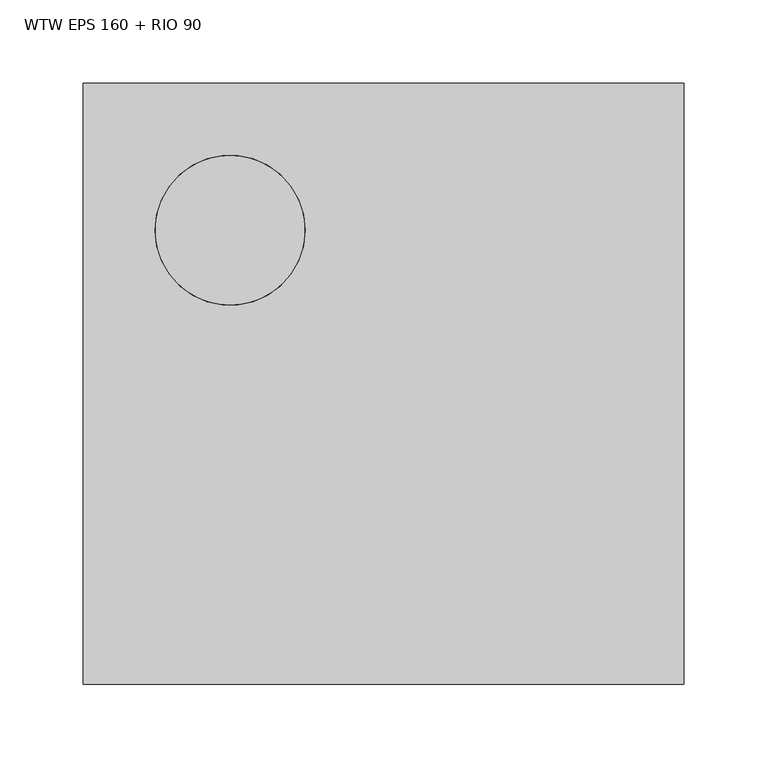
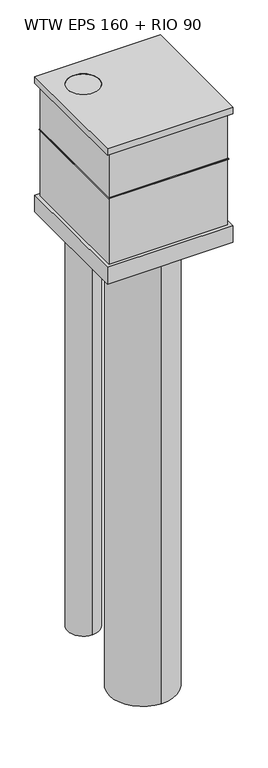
"""IFC4 building model written with IfcOpenShell, lengths in millimetres: proxy geometry, RSen_GM_WPB_Mini-Delta_M&G : WTW EPS 160 + RIO 90."""

from ifc_helpers import new_model, si_unit, point, frame, frame_2d, origin, place, context, project, spatial, polyline, circle_curve, trimmed, segment, composite_curve, outline, extrude, faceted_brep, source, transform, mapped, element, save
from ifc_brep_helpers import plane_surface, revolved_surface, advanced_brep


def wtw_eps_160_rio_90_c0a29b39(model_context):
    return source(origin(), model_context, "Body", "SolidModel", [
        extrude(outline(polyline([(172.5, 172.5), (172.5, -172.5), (-172.5, -172.5), (-172.5, 172.5), (172.5, 172.5)])), frame((0.0, 0.0, 567.8458328), z_axis=(0.0, 0.0, 1.0), x_axis=(1.0, 0.0, 0.0)), (0.0, 0.0, 1.0), 1.3),
        extrude(outline(composite_curve([segment(trimmed(circle_curve(frame_2d((-92.0, 92.0)), 45.0), [point((-92.0, 47.0))], [point((-92.0, 137.0))], False, "CARTESIAN"), True, "CONTINUOUS"), segment(trimmed(circle_curve(frame_2d((-92.0, 92.0)), 45.0), [point((-92.0, 137.0))], [point((-92.0, 47.0))], False, "CARTESIAN"), True, "CONTINUOUS")], self_intersect=False)), frame((0.0, 0.0, -911.1541672), z_axis=(0.0, 0.0, 1.0), x_axis=(1.0, 0.0, 0.0)), (0.0, 0.0, 1.0), 1636.7),
        extrude(outline(composite_curve([segment(trimmed(circle_curve(frame_2d((0.5, -42.0)), 95.0), [point((0.5, -137.0))], [point((0.5, 53.0))], False, "CARTESIAN"), True, "CONTINUOUS"), segment(trimmed(circle_curve(frame_2d((0.5, -42.0)), 95.0), [point((0.5, 53.0))], [point((0.5, -137.0))], False, "CARTESIAN"), True, "CONTINUOUS")], self_intersect=False)), frame((0.0, 0.0, -1040.1541672), z_axis=(0.0, 0.0, 1.0), x_axis=(1.0, 0.0, 0.0)), (0.0, 0.0, 1.0), 1506.0),
        advanced_brep(
        [(180.0, 180.0, 726.8458328), (-180.0, 180.0, 726.8458328), (-180.0, -180.0, 726.8458328), (180.0, -180.0, 726.8458328), (-137.0, 92.0, 726.8458328), (-47.0, 92.0, 726.8458328), (180.0, 180.0, 706.8458328), (180.0, -180.0, 706.8458328), (-180.0, -180.0, 706.8458328), (-180.0, 180.0, 706.8458328), (178.7, 178.7, 706.8458328), (-178.7, 178.7, 706.8458328), (-178.7, -178.7, 706.8458328), (178.7, -178.7, 706.8458328), (170.0, 170.0, 706.8458328), (170.0, -170.0, 706.8458328), (-170.0, -170.0, 706.8458328), (-170.0, 170.0, 706.8458328), (168.7, -168.7, 706.8458328), (168.7, 168.7, 706.8458328), (-168.7, 168.7, 706.8458328), (-168.7, -168.7, 706.8458328), (178.7, 178.7, 725.5458328), (178.7, -178.7, 725.5458328), (-178.7, -178.7, 725.5458328), (-178.7, 178.7, 725.5458328), (170.0, 170.0, 725.5458328), (-170.0, 170.0, 725.5458328), (-170.0, -170.0, 725.5458328), (170.0, -170.0, 725.5458328), (168.7, -168.7, 725.5458328), (-168.7, -168.7, 725.5458328), (-168.7, 168.7, 725.5458328), (168.7, 168.7, 725.5458328), (-47.0, 92.0, 725.5458328), (-137.0, 92.0, 725.5458328)],
        [
            (0, 1),
            (1, 2),
            (2, 3),
            (3, 0),
            (4, 5, circle_curve(frame((-92.0, 92.0, 726.8458328), z_axis=(0.0, 0.0, -1.0), x_axis=(1.0, 0.0, 0.0)), 45.0)),
            (5, 4, circle_curve(frame((-92.0, 92.0, 726.8458328), z_axis=(0.0, 0.0, -1.0), x_axis=(1.0, 0.0, 0.0)), 45.0)),
            (6, 7),
            (7, 8),
            (8, 9),
            (9, 6),
            (10, 11),
            (11, 12),
            (12, 13),
            (13, 10),
            (14, 15),
            (15, 16),
            (16, 17),
            (17, 14),
            (18, 19),
            (19, 20),
            (20, 21),
            (21, 18),
            (0, 6),
            (9, 1),
            (8, 2),
            (7, 3),
            (22, 23),
            (23, 24),
            (24, 25),
            (25, 22),
            (26, 27),
            (27, 28),
            (28, 29),
            (29, 26),
            (30, 31),
            (31, 32),
            (32, 33),
            (33, 30),
            (34, 35, circle_curve(frame((-92.0, 92.0, 725.5458328), z_axis=(0.0, 0.0, 1.0), x_axis=(1.0, 0.0, 0.0)), 45.0)),
            (35, 34, circle_curve(frame((-92.0, 92.0, 725.5458328), z_axis=(0.0, 0.0, 1.0), x_axis=(1.0, 0.0, 0.0)), 45.0)),
            (25, 11),
            (10, 22),
            (24, 12),
            (23, 13),
            (29, 15),
            (14, 26),
            (28, 16),
            (27, 17),
            (33, 19),
            (18, 30),
            (32, 20),
            (31, 21),
            (4, 35),
            (34, 5),
        ],
        [
            plane_surface(frame((-180.0, 180.0, 726.8458328), z_axis=(0.0, 0.0, 1.0), x_axis=(-1.0, 0.0, 0.0))),
            plane_surface(frame((-180.0, 180.0, 706.8458328), z_axis=(0.0, 0.0, -1.0), x_axis=(1.0, 0.0, 0.0))),
            plane_surface(frame((180.0, 180.0, 726.8458328), z_axis=(0.0, 1.0, 0.0), x_axis=(0.0, 0.0, -1.0))),
            plane_surface(frame((-180.0, 180.0, 726.8458328), z_axis=(-1.0, 0.0, 0.0), x_axis=(0.0, 0.0, -1.0))),
            plane_surface(frame((-180.0, -180.0, 726.8458328), z_axis=(0.0, -1.0, 0.0), x_axis=(0.0, 0.0, -1.0))),
            plane_surface(frame((180.0, -180.0, 726.8458328), z_axis=(1.0, 0.0, 0.0), x_axis=(0.0, 0.0, -1.0))),
            plane_surface(frame((-170.0, 178.7, 725.5458328), z_axis=(0.0, 0.0, -1.0), x_axis=(-1.0, 0.0, 0.0))),
            plane_surface(frame((178.7, 178.7, 725.5458328), z_axis=(0.0, -1.0, 0.0), x_axis=(0.0, 0.0, -1.0))),
            plane_surface(frame((-178.7, 178.7, 725.5458328), z_axis=(1.0, 0.0, 0.0), x_axis=(0.0, 0.0, -1.0))),
            plane_surface(frame((-178.7, -178.7, 725.5458328), z_axis=(0.0, 1.0, 0.0), x_axis=(0.0, 0.0, -1.0))),
            plane_surface(frame((178.7, -178.7, 725.5458328), z_axis=(-1.0, 0.0, 0.0), x_axis=(0.0, 0.0, -1.0))),
            plane_surface(frame((170.0, 170.0, 725.5458328), z_axis=(1.0, 0.0, 0.0), x_axis=(0.0, 0.0, -1.0))),
            plane_surface(frame((170.0, -170.0, 725.5458328), z_axis=(0.0, -1.0, 0.0), x_axis=(0.0, 0.0, -1.0))),
            plane_surface(frame((-170.0, -170.0, 725.5458328), z_axis=(-1.0, 0.0, 0.0), x_axis=(0.0, 0.0, -1.0))),
            plane_surface(frame((-170.0, 170.0, 725.5458328), z_axis=(0.0, 1.0, 0.0), x_axis=(0.0, 0.0, -1.0))),
            plane_surface(frame((168.7, -168.7, 725.5458328), z_axis=(-1.0, 0.0, 0.0), x_axis=(0.0, 0.0, -1.0))),
            plane_surface(frame((168.7, 168.7, 725.5458328), z_axis=(0.0, -1.0, 0.0), x_axis=(0.0, 0.0, -1.0))),
            plane_surface(frame((-168.7, 168.7, 725.5458328), z_axis=(1.0, 0.0, 0.0), x_axis=(0.0, 0.0, -1.0))),
            plane_surface(frame((-168.7, -168.7, 725.5458328), z_axis=(0.0, 1.0, 0.0), x_axis=(0.0, 0.0, -1.0))),
            revolved_surface(polyline([(-47.0, 92.0, 725.5458328), (-47.0, 92.0, 726.8458328)]), (-92.0, 92.0, 706.8458328), (0.0, 0.0, -1.0)),
        ],
        [
            (0, [[1, 2, 3, 4], [5, 6]]),
            (1, [[7, 8, 9, 10], [11, 12, 13, 14]]),
            (1, [[15, 16, 17, 18], [19, 20, 21, 22]]),
            (2, [[-1, 23, -10, 24]]),
            (3, [[-2, -24, -9, 25]]),
            (4, [[-3, -25, -8, 26]]),
            (5, [[-4, -26, -7, -23]]),
            (6, [[27, 28, 29, 30], [31, 32, 33, 34]]),
            (6, [[35, 36, 37, 38], [39, 40]]),
            (7, [[-30, 41, -11, 42]]),
            (8, [[-29, 43, -12, -41]]),
            (9, [[-28, 44, -13, -43]]),
            (10, [[-27, -42, -14, -44]]),
            (11, [[-34, 45, -15, 46]]),
            (12, [[-33, 47, -16, -45]]),
            (13, [[-32, 48, -17, -47]]),
            (14, [[-31, -46, -18, -48]]),
            (15, [[-38, 49, -19, 50]]),
            (16, [[-37, 51, -20, -49]]),
            (17, [[-36, 52, -21, -51]]),
            (18, [[-35, -50, -22, -52]]),
            (19, [[53, -39, 54, -5]]),
            (19, [[-53, -6, -54, -40]]),
        ],
    ),
        faceted_brep([(170.0, 170.0, 725.5458328), (-170.0, 170.0, 725.5458328), (-170.0, -170.0, 725.5458328), (170.0, -170.0, 725.5458328), (168.7, 168.7, 725.5458328), (168.7, -168.7, 725.5458328), (-168.7, -168.7, 725.5458328), (-168.7, 168.7, 725.5458328), (170.0, 170.0, 367.8458328), (170.0, -170.0, 367.8458328), (-170.0, -170.0, 367.8458328), (-170.0, 170.0, 367.8458328), (168.7, 168.7, 367.8458328), (-168.7, 168.7, 367.8458328), (-168.7, -168.7, 367.8458328), (168.7, -168.7, 367.8458328), (170.0, 170.0, 706.8458328), (-170.0, 170.0, 706.8458328), (-170.0, -170.0, 706.8458328), (170.0, -170.0, 706.8458328), (168.7, 168.7, 706.8458328), (168.7, -168.7, 706.8458328), (-168.7, -168.7, 706.8458328), (-168.7, 168.7, 706.8458328)], [[[0, 1, 2, 3], [4, 5, 6, 7]], [[8, 9, 10, 11], [12, 13, 14, 15]], [[1, 0, 16, 8, 11, 17]], [[2, 1, 17, 11, 10, 18]], [[3, 2, 18, 10, 9, 19]], [[0, 3, 19, 9, 8, 16]], [[5, 4, 20, 12, 15, 21]], [[6, 5, 21, 15, 14, 22]], [[7, 6, 22, 14, 13, 23]], [[4, 7, 23, 13, 12, 20]]]),
        faceted_brep([(180.0, 180.0, 317.8458328), (180.0, -180.0, 317.8458328), (-180.0, -180.0, 317.8458328), (-180.0, 180.0, 317.8458328), (178.7, 178.7, 317.8458328), (-178.7, 178.7, 317.8458328), (-178.7, -178.7, 317.8458328), (178.7, -178.7, 317.8458328), (180.0, 180.0, 367.8458328), (-180.0, 180.0, 367.8458328), (-180.0, -180.0, 367.8458328), (180.0, -180.0, 367.8458328), (178.7, 178.7, 366.5458328), (178.7, -178.7, 366.5458328), (-178.7, -178.7, 366.5458328), (-178.7, 178.7, 366.5458328)], [[[0, 1, 2, 3], [4, 5, 6, 7]], [[8, 9, 10, 11]], [[0, 3, 9, 8]], [[3, 2, 10, 9]], [[2, 1, 11, 10]], [[1, 0, 8, 11]], [[12, 13, 14, 15]], [[12, 15, 5, 4]], [[15, 14, 6, 5]], [[14, 13, 7, 6]], [[13, 12, 4, 7]]]),
    ])


if __name__ == "__main__":
    model = new_model("IFC4")
    model_context = context("Model", 3, world=origin())
    ifc_project = project(units=[si_unit("LENGTHUNIT", "METRE", prefix="MILLI")], contexts=[model_context])
    site = spatial("IfcSite", under=ifc_project)
    building = spatial("IfcBuilding", under=site)
    placement = place(None, origin())
    wtw_eps_160_rio_90_shape = wtw_eps_160_rio_90_c0a29b39(model_context)
    element("IfcBuildingElementProxy", 1, Name="RSen_GM_WPB_Mini-Delta_M&G : WTW EPS 160 + RIO 90", ObjectType="RSen_GM_WPB_Mini-Delta_M&G : WTW EPS 160 + RIO 90", at=placement, inside=building, context=model_context, shape_type="MappedRepresentation", body=[
        mapped(wtw_eps_160_rio_90_shape, transform((0.0, 0.0, 0.0), x_axis=(1.0, 0.0, 0.0), y_axis=(0.0, 1.0, 0.0), z_axis=(0.0, 0.0, 1.0))),
    ])
    save(model, "model.ifc")
